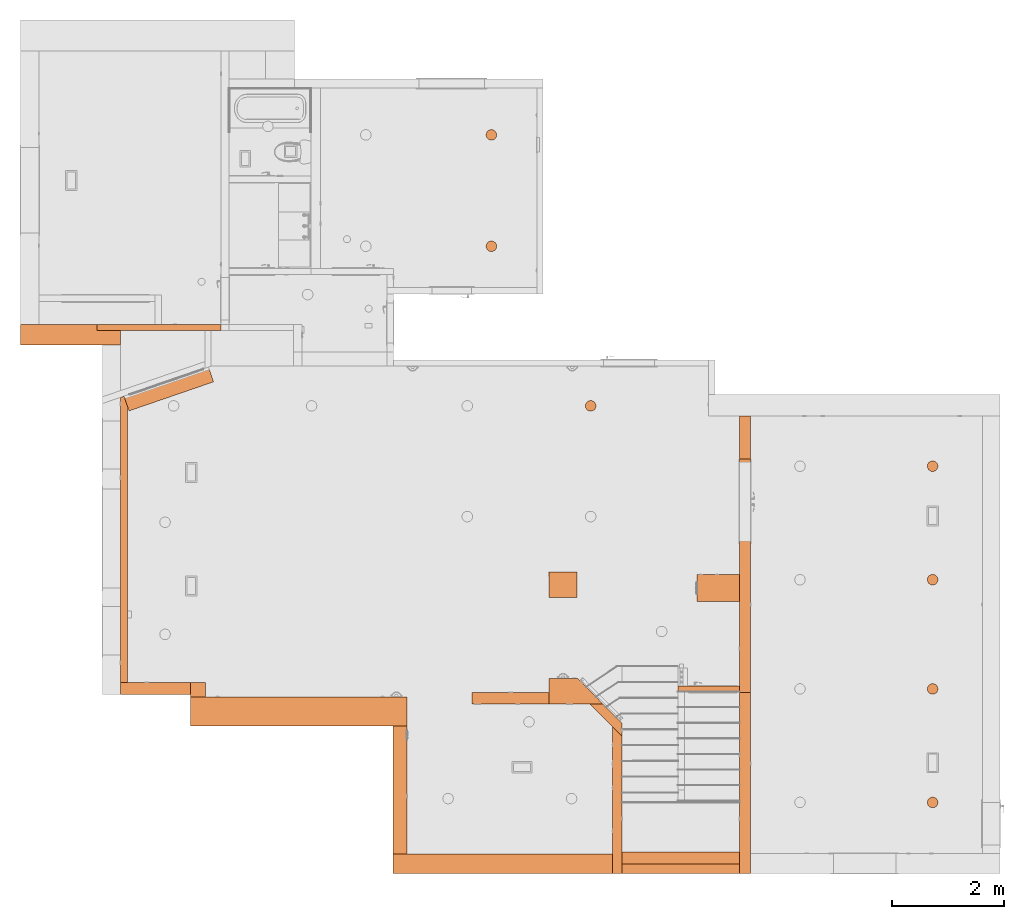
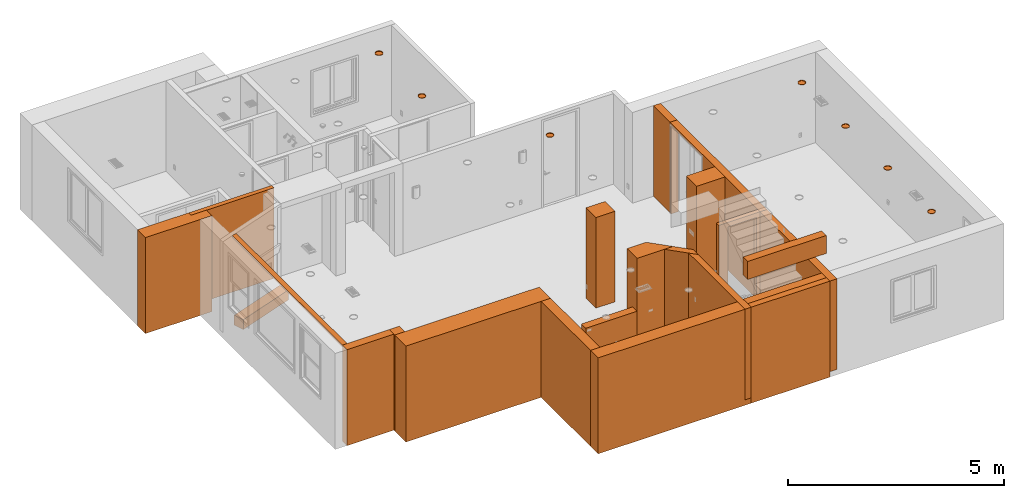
# One storey, part 34 of 48: 28 proxies.
"""IFC2X3 building model written with IfcOpenShell, lengths in inches."""

from ifc_helpers import new_model, entity, si_unit, converted_unit, derived_unit, money_unit, direction, frame, origin_with_axes, place, context, subcontext, project, spatial, open_shell, faceted_brep, surface_model, source, transform, mapped, material, type_object, element, save


model = new_model("IFC2X3")

# Units and contexts
model_context = context("Model", 3, precision=0.00039370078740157, world=origin_with_axes(), true_north=direction((0.0, 1.0)))
plan_context = context("Plan", 3, precision=0.00039370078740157, world=origin_with_axes(), true_north=direction((0.0, 1.0)))
body_context = subcontext(model_context, "Body", "Model", "MODEL_VIEW")
ifc_project = project(units=[converted_unit("LENGTHUNIT", "INCH", entity("IfcPositiveLengthMeasure", 0.0254), si_unit("LENGTHUNIT", "METRE"), dimensions=[1, 0, 0, 0, 0, 0, 0]), converted_unit("AREAUNIT", "SQUARE_FOOT", entity("IfcPositiveLengthMeasure", 0.09290304), si_unit("AREAUNIT", "SQUARE_METRE"), dimensions=[2, 0, 0, 0, 0, 0, 0]), si_unit("PLANEANGLEUNIT", "RADIAN"), si_unit("SOLIDANGLEUNIT", "STERADIAN"), money_unit("USD"), converted_unit("TIMEUNIT", "Year", entity("IfcTimeMeasure", 31557600.0), si_unit("TIMEUNIT", "SECOND"), dimensions=[0, 0, 1, 0, 0, 0, 0]), si_unit("MASSUNIT", "GRAM", prefix="KILO"), si_unit("THERMODYNAMICTEMPERATUREUNIT", "DEGREE_CELSIUS"), si_unit("LUMINOUSINTENSITYUNIT", "LUMEN"), si_unit("ENERGYUNIT", "JOULE", prefix="MEGA"), derived_unit("SPECIFICHEATCAPACITYUNIT", [(si_unit("ENERGYUNIT", "JOULE"), 1), (si_unit("MASSUNIT", "GRAM", prefix="KILO"), -1), (si_unit("THERMODYNAMICTEMPERATUREUNIT", "KELVIN"), -1)])], contexts=[model_context, plan_context])

# Site, building, storey
site_placement = place(None, origin_with_axes())
site = spatial("IfcSite", under=ifc_project, at=site_placement, Name="Site", CompositionType="ELEMENT")
building_placement = place(site_placement, origin_with_axes())
building = spatial("IfcBuilding", under=site, at=building_placement, Name="Building", CompositionType="ELEMENT")
storey_placement = place(building_placement, origin_with_axes())
storey = spatial("IfcBuildingStorey", under=building, at=storey_placement, Name="First Floor", CompositionType="ELEMENT", Elevation=0.0)

# Proxies
building_element_proxy_type_1 = type_object("IfcBuildingElementProxyType", Name="Recessed Spot", PredefinedType="NOTDEFINED")
shared_shape = source(origin_with_axes(), body_context, "Body", "SurfaceModel", [
    faceted_brep([(3.749999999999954, 0.0, -0.4999999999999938), (3.523847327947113, 1.282575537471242, -0.4999999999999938), (3.523847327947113, 1.282575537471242, 0.0), (3.749999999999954, 0.0, 0.0), (3.523847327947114, -1.282575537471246, -0.4999999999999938), (2.872666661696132, -2.410453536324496, -0.4999999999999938), (1.874999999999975, -3.247595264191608, -0.4999999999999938), (0.6511806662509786, -3.693029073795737, -0.4999999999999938), (-0.6511806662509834, -3.693029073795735, -0.4999999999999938), (-1.87499999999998, -3.247595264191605, -0.4999999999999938), (-2.872666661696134, -2.410453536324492, -0.4999999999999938), (-3.523847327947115, -1.282575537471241, -0.4999999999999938), (-3.749999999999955, 0.0, -0.4999999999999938), (-3.523847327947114, 1.282575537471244, -0.4999999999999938), (-2.872666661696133, 2.410453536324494, -0.4999999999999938), (-1.874999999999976, 3.247595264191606, -0.4999999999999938), (-0.6511806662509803, 3.693029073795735, -0.4999999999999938), (0.6511806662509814, 3.693029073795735, -0.4999999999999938), (1.874999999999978, 3.247595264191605, -0.4999999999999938), (2.872666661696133, 2.410453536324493, -0.4999999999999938), (3.24999999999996, 0.0, -0.4999999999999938), (3.054001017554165, 1.11156546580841, -0.4999999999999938), (2.489644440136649, 2.089059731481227, -0.4999999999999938), (1.62499999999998, 2.814582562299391, -0.4999999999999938), (0.5643565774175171, 3.200625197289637, -0.4999999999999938), (-0.5643565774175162, 3.200625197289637, -0.4999999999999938), (-1.62499999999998, 2.814582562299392, -0.4999999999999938), (-2.489644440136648, 2.089059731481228, -0.4999999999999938), (-3.054001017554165, 1.111565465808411, -0.4999999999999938), (-3.24999999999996, 0.0, -0.4999999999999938), (-3.054001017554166, -1.111565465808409, -0.4999999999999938), (-2.48964444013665, -2.089059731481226, -0.4999999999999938), (-1.624999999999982, -2.814582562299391, -0.4999999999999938), (-0.5643565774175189, -3.200625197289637, -0.4999999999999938), (0.5643565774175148, -3.200625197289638, -0.4999999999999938), (1.624999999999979, -2.814582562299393, -0.4999999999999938), (2.489644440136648, -2.08905973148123, -0.4999999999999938), (3.054001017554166, -1.111565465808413, -0.4999999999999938), (2.872666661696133, 2.410453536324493, 0.0), (1.874999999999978, 3.247595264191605, 0.0), (0.6511806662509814, 3.693029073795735, 0.0), (-0.6511806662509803, 3.693029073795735, 0.0), (-1.874999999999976, 3.247595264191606, 0.0), (-2.872666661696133, 2.410453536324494, 0.0), (-3.523847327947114, 1.282575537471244, 0.0), (-3.749999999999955, 0.0, 0.0), (-3.523847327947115, -1.282575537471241, 0.0), (-2.872666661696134, -2.410453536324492, 0.0), (-1.87499999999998, -3.247595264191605, 0.0), (-0.6511806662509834, -3.693029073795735, 0.0), (0.6511806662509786, -3.693029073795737, 0.0), (1.874999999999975, -3.247595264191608, 0.0), (2.872666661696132, -2.410453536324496, 0.0), (3.523847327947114, -1.282575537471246, 0.0), (3.24999999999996, 0.0, 0.0), (3.054001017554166, -1.111565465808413, 0.0), (2.489644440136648, -2.08905973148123, 0.0), (1.624999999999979, -2.814582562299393, 0.0), (0.5643565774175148, -3.200625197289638, 0.0), (-0.5643565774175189, -3.200625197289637, 0.0), (-1.624999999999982, -2.814582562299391, 0.0), (-2.48964444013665, -2.089059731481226, 0.0), (-3.054001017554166, -1.111565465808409, 0.0), (-3.24999999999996, 0.0, 0.0), (-3.054001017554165, 1.111565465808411, 0.0), (-2.489644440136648, 2.089059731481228, 0.0), (-1.62499999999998, 2.814582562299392, 0.0), (-0.5643565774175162, 3.200625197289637, 0.0), (0.5643565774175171, 3.200625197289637, 0.0), (1.62499999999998, 2.814582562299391, 0.0), (2.489644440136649, 2.089059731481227, 0.0), (3.054001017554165, 1.11156546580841, 0.0)], [[[0, 1, 2, 3]], [[0, 4, 5, 6, 7, 8, 9, 10, 11, 12, 13, 14, 15, 16, 17, 18, 19, 1], [20, 21, 22, 23, 24, 25, 26, 27, 28, 29, 30, 31, 32, 33, 34, 35, 36, 37]], [[1, 19, 38, 2]], [[3, 2, 38, 39, 40, 41, 42, 43, 44, 45, 46, 47, 48, 49, 50, 51, 52, 53], [54, 55, 56, 57, 58, 59, 60, 61, 62, 63, 64, 65, 66, 67, 68, 69, 70, 71]], [[4, 0, 3, 53]], [[5, 4, 53, 52]], [[6, 5, 52, 51]], [[7, 6, 51, 50]], [[8, 7, 50, 49]], [[9, 8, 49, 48]], [[10, 9, 48, 47]], [[11, 10, 47, 46]], [[12, 11, 46, 45]], [[13, 12, 45, 44]], [[14, 13, 44, 43]], [[15, 14, 43, 42]], [[16, 15, 42, 41]], [[17, 16, 41, 40]], [[18, 17, 40, 39]], [[19, 18, 39, 38]], [[21, 20, 54, 71]], [[22, 21, 71, 70]], [[23, 22, 70, 69]], [[24, 23, 69, 68]], [[25, 24, 68, 67]], [[26, 25, 67, 66]], [[27, 26, 66, 65]], [[28, 27, 65, 64]], [[29, 28, 64, 63]], [[30, 29, 63, 62]], [[31, 30, 62, 61]], [[32, 31, 61, 60]], [[33, 32, 60, 59]], [[34, 33, 59, 58]], [[35, 34, 58, 57]], [[36, 35, 57, 56]], [[37, 36, 56, 55]], [[20, 37, 55, 54]]]),
    surface_model("IfcShellBasedSurfaceModel", [(3.24999999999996, 0.0, -0.4460629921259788), (3.054001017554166, -1.111565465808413, -0.4460629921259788), (2.489644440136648, -2.08905973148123, -0.4460629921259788), (1.624999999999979, -2.814582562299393, -0.4460629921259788), (0.5643565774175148, -3.200625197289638, -0.4460629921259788), (-0.5643565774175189, -3.200625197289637, -0.4460629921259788), (-1.624999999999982, -2.814582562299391, -0.4460629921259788), (-2.48964444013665, -2.089059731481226, -0.4460629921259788), (-3.054001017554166, -1.111565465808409, -0.4460629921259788), (-3.24999999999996, 0.0, -0.4460629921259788), (-3.054001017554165, 1.111565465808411, -0.4460629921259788), (-2.489644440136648, 2.089059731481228, -0.4460629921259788), (-1.62499999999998, 2.814582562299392, -0.4460629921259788), (-0.5643565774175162, 3.200625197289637, -0.4460629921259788), (0.5643565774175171, 3.200625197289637, -0.4460629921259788), (1.62499999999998, 2.814582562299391, -0.4460629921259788), (2.489644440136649, 2.089059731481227, -0.4460629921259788), (3.054001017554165, 1.11156546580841, -0.4460629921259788)], [open_shell([[[0, 1, 2, 3, 4, 5, 6, 7, 8, 9, 10, 11, 12, 13, 14, 15, 16, 17]]])]),
])
for number, where, z_axis, x_axis, name in (
    (1, (380.4999999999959, 129.9999999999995, 100.9999999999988), (0.0, 0.0, 1.0), (1.0, 0.0, 0.0), "L-03"),
    (2, (380.4999999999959, 206.9999999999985, 100.9999999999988), (0.0, 0.0, 1.0), (1.0, 0.0, 0.0), "L-03"),
    (3, (69.50000000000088, 520.4999999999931, 100.9999999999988), (0.0, 0.0, 1.0), (1.0, 0.0, 0.0), "L-03"),
    (4, (139.4999999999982, 329.4999999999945, 100.9999999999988), (0.0, 0.0, 1.0), (1.0, 0.0, 0.0), "L-03"),
    (5, (69.50000000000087, 441.999999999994, 100.9999999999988), (0.0, 0.0, 1.0), (1.0, 0.0, 0.0), "L-03"),
    (6, (380.4999999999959, 50.00000000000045, 100.9999999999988), (0.0, 0.0, 1.0), (1.0, 0.0, 0.0), "L-03"),
    (7, (380.4999999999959, 286.9999999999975, 100.9999999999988), (0.0, 0.0, 1.0), (1.0, 0.0, 0.0), "L-03"),
):
    element("IfcBuildingElementProxy", number, at=place(storey_placement, frame(where, z_axis=z_axis, x_axis=x_axis)), inside=storey, type_object=building_element_proxy_type_1, Name=name, context=body_context, shape_type="MappedRepresentation", body=[
        mapped(shared_shape, transform((0.0, 0.0, 0.0))),
    ])
ifc_material = material(Name="Generic - Structural")
building_element_proxy_type_2 = type_object("IfcBuildingElementProxyType", Name="Generic - Structural 11\"", PredefinedType="NOTDEFINED")
proxy_1_placement = place(storey_placement, frame((-129.891411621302, 356.8498394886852, 0.0), z_axis=(0.0, 0.0, 1.0), x_axis=(1.0, 0.0, 0.0)))
element("IfcBuildingElementProxy", 8, at=proxy_1_placement, inside=storey, type_object=building_element_proxy_type_2, material=ifc_material, Name="SLA - 003", context=body_context, shape_type="Brep", body=[
    faceted_brep([(-59.57824746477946, -20.48004930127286, 10.99999999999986), (0.0, 0.0, 10.99999999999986), (0.0, 0.0, 0.0), (-59.57824746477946, -20.48004930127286, 0.0), (-56.00236583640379, -30.88260045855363, 10.99999999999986), (3.575881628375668, -10.40255115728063, 10.99999999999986), (3.575881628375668, -10.40255115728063, 0.0), (-56.00236583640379, -30.88260045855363, 0.0)], [[[0, 1, 2, 3]], [[4, 5, 1, 0]], [[1, 5, 6, 2]], [[7, 3, 2, 6]], [[4, 0, 3, 7]], [[5, 4, 7, 6]]]),
])
building_element_proxy_type_3 = type_object("IfcBuildingElementProxyType", Name="Generic - Structural 2\"", PredefinedType="NOTDEFINED")
proxy_2_placement = place(storey_placement, frame((-192.0000016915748, 134.499982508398, 100.9999999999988), z_axis=(0.0, 0.0, 1.0), x_axis=(1.0, 0.0, 0.0)))
element("IfcBuildingElementProxy", 9, at=proxy_2_placement, inside=storey, type_object=building_element_proxy_type_3, material=ifc_material, Name="SLA - 002", context=body_context, shape_type="Brep", body=[
    faceted_brep([(0.0, 0.0, 0.0), (0.0, 0.0, -1.999999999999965), (5.000001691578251, 1.749160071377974e-05, -1.999999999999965), (5.000001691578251, 1.749160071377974e-05, 0.0), (-0.0005107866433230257, 200.9998257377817, 0.0), (-0.0005107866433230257, 200.9998257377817, -1.999999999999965), (5.000001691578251, 202.7187541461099, -1.999999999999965), (5.000001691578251, 202.7187541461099, 0.0)], [[[0, 1, 2, 3]], [[4, 5, 1, 0]], [[2, 1, 5, 6]], [[3, 2, 6, 7]], [[4, 0, 3, 7]], [[7, 6, 5, 4]]]),
])
building_element_proxy_type_4 = type_object("IfcBuildingElementProxyType", Name="Generic - Structural 7 1/2\"", PredefinedType="NOTDEFINED")
proxy_3_placement = place(storey_placement, frame((244.4999999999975, 291.9985463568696, 0.0), z_axis=(0.0, 0.0, 1.0), x_axis=(0.0, 1.0, 0.0)))
element("IfcBuildingElementProxy", 10, at=proxy_3_placement, inside=storey, type_object=building_element_proxy_type_4, material=ifc_material, Name="SW - 044", context=body_context, shape_type="Brep", body=[
    faceted_brep([(30.50145364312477, 0.0, 0.0), (30.50145364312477, 0.0, 100.9999999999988), (30.50145364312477, -7.499999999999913, 100.9999999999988), (30.50145364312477, -7.499999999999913, 0.0), (0.0, 0.0, 0.0), (0.0, 0.0, 100.9999999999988), (0.0, -7.499999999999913, 100.9999999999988), (0.0, -7.499999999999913, 0.0)], [[[0, 1, 2, 3]], [[4, 5, 1, 0]], [[5, 6, 2, 1]], [[3, 2, 6, 7]], [[7, 4, 0, 3]], [[7, 6, 5, 4]]]),
])
proxy_4_placement = place(storey_placement, frame((244.4999999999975, 6.499999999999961, 0.0), z_axis=(0.0, 0.0, 1.0), x_axis=(0.0, 1.0, 0.0)))
element("IfcBuildingElementProxy", 11, at=proxy_4_placement, inside=storey, type_object=building_element_proxy_type_4, material=ifc_material, Name="SW - 044", context=body_context, shape_type="Brep", body=[
    faceted_brep([(121.0000000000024, -7.499999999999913, 0.0), (-6.500000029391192, -7.499999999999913, 0.0), (-6.499999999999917, 0.0, 0.0), (121.0000000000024, 0.0, 0.0), (121.0000000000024, -7.499999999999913, 100.9999999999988), (-6.500000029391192, -7.499999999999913, 100.9999999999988), (-6.499999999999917, 0.0, 100.9999999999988), (121.0000000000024, 0.0, 100.9999999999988)], [[[0, 1, 2, 3]], [[4, 5, 1, 0]], [[6, 2, 1, 5]], [[3, 2, 6, 7]], [[7, 4, 0, 3]], [[7, 6, 5, 4]]]),
])
proxy_5_placement = place(storey_placement, frame((244.4999999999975, 127.5000000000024, 0.0), z_axis=(0.0, 0.0, 1.0), x_axis=(0.0, 1.0, 0.0)))
element("IfcBuildingElementProxy", 12, at=proxy_5_placement, inside=storey, type_object=building_element_proxy_type_4, material=ifc_material, Name="SW - 044", context=body_context, shape_type="Brep", body=[
    faceted_brep([(106.4999999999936, -7.499999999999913, 0.0), (106.4999999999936, -7.499999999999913, 97.99999999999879), (162.4999999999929, -7.499999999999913, 97.99999999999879), (162.4999999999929, -7.499999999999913, 0.0), (164.4985463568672, -7.499999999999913, 0.0), (164.4985463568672, -7.499999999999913, 100.9999999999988), (0.0, -7.499999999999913, 100.9999999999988), (0.0, -7.499999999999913, 0.0), (106.4999999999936, 0.0, 0.0), (106.4999999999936, 0.0, 97.99999999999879), (162.4999999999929, 0.0, 97.99999999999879), (162.4999999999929, 0.0, 0.0), (164.4985463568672, 0.0, 0.0), (164.4985463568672, 0.0, 100.9999999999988), (-2.470555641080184e-06, -2.384188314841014e-06, 100.9999999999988), (0.0, 0.0, 0.0)], [[[0, 1, 2, 3, 4, 5, 6, 7]], [[1, 0, 8, 9]], [[2, 1, 9, 10]], [[3, 2, 10, 11]], [[3, 11, 12, 4]], [[13, 5, 4, 12]], [[6, 5, 13, 14]], [[6, 14, 15, 7]], [[8, 0, 7, 15]], [[9, 8, 15, 14, 13, 12, 11, 10]]]),
])
building_element_proxy_type_5 = type_object("IfcBuildingElementProxyType", Name="Generic - Structural 6 1/2\"", PredefinedType="NOTDEFINED")
proxy_6_placement = place(storey_placement, frame((161.4999999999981, 6.500000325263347, -5.99999999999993), z_axis=(0.0, 0.0, 1.0), x_axis=(1.0, -3.91883597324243e-09, 0.0)))
element("IfcBuildingElementProxy", 13, at=proxy_6_placement, inside=storey, type_object=building_element_proxy_type_5, material=ifc_material, Name="SW - 037", context=body_context, shape_type="Brep", body=[
    faceted_brep([(2.54724325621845e-08, -6.500000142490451, 106.9999999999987), (83.00000002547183, -6.499999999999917, 106.9999999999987), (82.9999999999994, 3.252633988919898e-07, 106.9999999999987), (0.0, 0.0, 106.9999999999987), (82.9999999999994, -6.499999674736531, 0.0), (83.00000002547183, -6.499999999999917, 5.99999999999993), (2.54724325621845e-08, -6.499999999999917, 5.99999999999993), (0.0, -6.499999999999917, 0.0), (82.99999997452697, 3.252633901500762e-07, 0.0), (82.9999999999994, 3.252633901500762e-07, 5.99999999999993), (-2.54724325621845e-08, 0.0, 0.0), (0.0, 0.0, 5.99999999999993)], [[[0, 1, 2, 3]], [[4, 5, 1, 0, 6, 7]], [[8, 9, 2, 1, 5, 4]], [[3, 2, 9, 8, 10, 11]], [[7, 6, 0, 3, 11, 10]], [[7, 10, 8, 4]]]),
])
proxy_7_placement = place(storey_placement, frame((161.4999999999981, 106.0000052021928, 0.0), z_axis=(0.0, 0.0, 1.0), x_axis=(0.0, -1.0, 0.0)))
element("IfcBuildingElementProxy", 14, at=proxy_7_placement, inside=storey, type_object=building_element_proxy_type_5, material=ifc_material, Name="SW - 036", context=body_context, shape_type="Brep", body=[
    faceted_brep([(2.684941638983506, -6.499999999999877, 0.0), (2.684941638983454, -6.499999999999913, 100.9999999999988), (9.210425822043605, -9.238727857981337e-06, 100.9999999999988), (9.210425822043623, 0.0, 0.0), (106.0000050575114, -6.49999999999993, 100.9999999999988), (106.0000048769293, -6.49999999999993, 0.0), (106.0000050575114, 0.0, 100.9999999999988), (90.99998204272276, -9.238727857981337e-06, 100.9999999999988), (106.0000048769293, 0.0, 0.0)], [[[0, 1, 2, 3]], [[4, 1, 0, 5]], [[6, 7, 2, 1, 4]], [[2, 7, 6, 8, 3]], [[8, 5, 0, 3]], [[5, 8, 6, 4]]]),
])
proxy_8_placement = place(storey_placement, frame((130.1230231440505, 137.4999999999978, 0.0), z_axis=(0.0, 0.0, 1.0), x_axis=(0.7057219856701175, -0.7084888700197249, 0.0)))
element("IfcBuildingElementProxy", 15, at=proxy_8_placement, inside=storey, type_object=building_element_proxy_type_5, material=ifc_material, Name="SW - 035", context=body_context, shape_type="Brep", body=[
    faceted_brep([(44.46081813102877, 0.0, 0.0), (50.98630231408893, -6.499999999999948, 0.0), (18.93157064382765, -6.499999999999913, 0.0), (25.40618598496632, 0.0, 0.0), (44.46081813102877, 0.0, 100.9999999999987), (50.98630231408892, -6.499999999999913, 100.9999999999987), (18.93157064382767, -6.499999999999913, 100.9999999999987), (25.40618598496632, 0.0, 100.9999999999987)], [[[0, 1, 2, 3]], [[1, 0, 4, 5]], [[1, 5, 6, 2]], [[7, 3, 2, 6]], [[4, 0, 3, 7]], [[5, 4, 7, 6]]]),
])
building_element_proxy_type_6 = type_object("IfcBuildingElementProxyType", Name="Generic - Structural 4 1/2\"", PredefinedType="NOTDEFINED")
proxy_9_placement = place(storey_placement, frame((244.4999999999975, 127.5000000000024, 0.0), z_axis=(0.0, 0.0, 1.0), x_axis=(-1.0, 0.0, 0.0)))
element("IfcBuildingElementProxy", 16, at=proxy_9_placement, inside=storey, type_object=building_element_proxy_type_6, material=ifc_material, Name="SW - 039", context=body_context, shape_type="Brep", body=[
    faceted_brep([(33.99999999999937, -4.499999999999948, 95.9999999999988), (33.99999999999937, -4.499999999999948, 0.0), (43.49999999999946, -4.499999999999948, 0.0), (43.49999999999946, -4.499999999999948, 100.9999999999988), (0.0, -4.49999999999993, 100.9999999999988), (0.0, -4.499999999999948, 0.0), (3.99999999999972, -4.499999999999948, 0.0), (3.99999999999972, -4.499999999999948, 95.9999999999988), (33.99999999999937, 0.0, 95.9999999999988), (33.99999999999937, 0.0, 0.0), (43.49999999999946, 0.0, 0.0), (43.49999999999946, 0.0, 100.9999999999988), (0.0, 0.0, 100.9999999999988), (0.0, 0.0, 0.0), (3.99999999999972, 0.0, 0.0), (3.99999999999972, 0.0, 95.9999999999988)], [[[0, 1, 2, 3, 4, 5, 6, 7]], [[1, 0, 8, 9]], [[1, 9, 10, 2]], [[11, 3, 2, 10]], [[12, 4, 3, 11]], [[5, 4, 12, 13]], [[14, 6, 5, 13]], [[7, 6, 14, 15]], [[0, 7, 15, 8]], [[15, 14, 13, 12, 11, 10, 9, 8]]]),
])
proxy_10_placement = place(storey_placement, frame((-192.0000016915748, 386.9999999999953, 0.0), z_axis=(0.0, 0.0, 1.0), x_axis=(1.0, 0.0, 0.0)))
element("IfcBuildingElementProxy", 17, at=proxy_10_placement, inside=storey, type_object=building_element_proxy_type_6, material=ifc_material, Name="SW - 051", context=body_context, shape_type="Brep", body=[
    faceted_brep([(-16.43700787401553, 0.0, 100.9999999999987), (-16.43700787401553, -4.499999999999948, 100.9999999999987), (71.00000169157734, -4.499999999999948, 100.9999999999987), (71.00000169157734, 0.0, 100.9999999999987), (-16.43700787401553, 0.0, 0.0), (-16.43700787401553, -4.499999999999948, 0.0), (71.00000169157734, -4.499999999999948, 0.0), (71.00000169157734, -4.499999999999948, 94.99999999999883), (71.00000169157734, 0.0, 0.0)], [[[0, 1, 2, 3]], [[4, 5, 1, 0]], [[5, 6, 7, 2, 1]], [[6, 8, 3, 2, 7]], [[4, 0, 3, 8]], [[5, 4, 8, 6]]]),
])
building_element_proxy_type_7 = type_object("IfcBuildingElementProxyType", Name="Generic - Structural 10 1/2\"", PredefinedType="NOTDEFINED")
proxy_11_placement = place(storey_placement, frame((-131.9999999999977, 134.4999999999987, -5.99999999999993), z_axis=(0.0, 0.0, 1.0), x_axis=(0.0, -1.0, 0.0)))
element("IfcBuildingElementProxy", 18, at=proxy_11_placement, inside=storey, type_object=building_element_proxy_type_7, material=ifc_material, Name="SW - 021", context=body_context, shape_type="Brep", body=[
    faceted_brep([(3.061030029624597e-06, -10.49999999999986, 106.9999999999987), (9.99999999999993, -10.49999999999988, 106.9999999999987), (9.99999999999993, 0.0, 106.9999999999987), (0.0, 0.0, 106.9999999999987), (3.061030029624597e-06, -10.49999999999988, 0.0), (9.99999999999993, -10.49999999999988, 0.0), (9.99999999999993, 0.0, 0.0), (0.0, 0.0, 0.0)], [[[0, 1, 2, 3]], [[4, 5, 1, 0]], [[2, 1, 5, 6]], [[2, 6, 7, 3]], [[4, 0, 3, 7]], [[7, 6, 5, 4]]]),
])
building_element_proxy_type_8 = type_object("IfcBuildingElementProxyType", Name="Generic - Structural 8 1/2\"", PredefinedType="NOTDEFINED")
proxy_12_placement = place(storey_placement, frame((161.5000001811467, 14.99999625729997, 67.99999999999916), z_axis=(0.0, 0.0, 1.0), x_axis=(0.999999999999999, 4.685791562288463e-08, 0.0)))
element("IfcBuildingElementProxy", 19, at=proxy_12_placement, inside=storey, type_object=building_element_proxy_type_8, material=ifc_material, Name="SW - 024", context=body_context, shape_type="Brep", body=[
    faceted_brep([(-1.811486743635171e-07, 0.0, 0.0), (-1.811474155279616e-07, 2.690217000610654e-05, 32.99999999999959), (83.0000022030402, 2.301296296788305e-05, 32.99999999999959), (82.99999981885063, -3.889207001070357e-06, 0.0), (-5.79440957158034e-07, -8.499999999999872, 0.0), (-5.794420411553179e-07, -8.500022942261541, 32.99999999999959), (83.00000180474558, -8.500026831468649, 32.99999999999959), (82.99999942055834, -8.50000388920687, 0.0)], [[[0, 1, 2, 3]], [[4, 5, 1, 0]], [[5, 6, 2, 1]], [[3, 2, 6, 7]], [[4, 0, 3, 7]], [[7, 6, 5, 4]]]),
    faceted_brep([(82.99999942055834, -8.50000388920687, 79.99999999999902), (83.00000180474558, -8.500026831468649, 59.99999999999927), (83.0000022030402, 2.301296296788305e-05, 59.99999999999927), (82.99999981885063, -3.889206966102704e-06, 79.99999999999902), (0.0, -8.499999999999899, 79.99999999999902), (-5.794420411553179e-07, -8.500022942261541, 59.99999999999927), (-1.811474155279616e-07, 2.690217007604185e-05, 59.99999999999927), (3.98292282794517e-07, 0.0, 79.99999999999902)], [[[0, 1, 2, 3]], [[4, 5, 1, 0]], [[5, 6, 2, 1]], [[3, 2, 6, 7]], [[7, 4, 0, 3]], [[7, 6, 5, 4]]]),
])
proxy_13_placement = place(storey_placement, frame((-131.9999999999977, 134.4999999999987, -5.99999999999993), z_axis=(0.0, 0.0, 1.0), x_axis=(-0.9999999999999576, -2.91526670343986e-07, 0.0)))
element("IfcBuildingElementProxy", 20, at=proxy_13_placement, inside=storey, type_object=building_element_proxy_type_8, material=ifc_material, Name="SW - 020", context=body_context, shape_type="Brep", body=[
    faceted_brep([(60.00000169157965, 0.0, 106.9999999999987), (60.00000416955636, 8.499999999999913, 106.9999999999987), (10.50000247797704, 8.499999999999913, 106.9999999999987), (10.50000000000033, 0.0, 106.9999999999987), (60.00000169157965, 0.0, 0.0), (60.00000416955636, 8.499999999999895, 0.0), (10.50000247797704, 8.499999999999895, 0.0), (10.50000000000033, 0.0, 0.0)], [[[0, 1, 2, 3]], [[1, 0, 4, 5]], [[1, 5, 6, 2]], [[7, 3, 2, 6]], [[4, 0, 3, 7]], [[5, 4, 7, 6]]]),
])
building_element_proxy_type_9 = type_object("IfcBuildingElementProxyType", Name="Generic - Structural 20 1/2\"", PredefinedType="NOTDEFINED")
proxy_14_placement = place(storey_placement, frame((-131.9999999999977, 124.4999999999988, -5.99999999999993), z_axis=(0.0, 0.0, 1.0), x_axis=(1.0, 0.0, 0.0)))
element("IfcBuildingElementProxy", 21, at=proxy_14_placement, inside=storey, type_object=building_element_proxy_type_9, material=ifc_material, Name="SW - 022", context=body_context, shape_type="Brep", body=[
    faceted_brep([(-10.49999999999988, 0.0, 106.9999999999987), (141.9999999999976, 0.0, 106.9999999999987), (141.9999999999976, 0.0, 0.0), (-10.49999999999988, 0.0, 0.0), (0.0, 0.0, 99.49999999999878), (0.0, 0.0, 33.99999999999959), (126.9999999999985, 0.0, 33.99999999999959), (126.9999999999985, 0.0, 99.49999999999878), (-10.49999999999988, -20.49999999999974, 106.9999999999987), (141.9999999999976, -20.49999999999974, 106.9999999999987), (141.9999999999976, -20.49999999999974, 0.0), (-10.49999999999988, -20.49999999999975, 0.0), (0.0, -15.49999999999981, 33.99999999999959), (0.0, -15.49999999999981, 99.49999999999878), (126.9999999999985, -15.49999999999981, 33.99999999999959), (126.9999999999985, -15.49999999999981, 99.49999999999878)], [[[0, 1, 2, 3], [4, 5, 6, 7]], [[8, 9, 1, 0]], [[9, 10, 2, 1]], [[3, 2, 10, 11]], [[8, 0, 3, 11]], [[12, 5, 4, 13]], [[14, 6, 5, 12]], [[15, 7, 6, 14]], [[13, 4, 7, 15]], [[11, 10, 9, 8]], [[12, 13, 15, 14]]]),
])
building_element_proxy_type_10 = type_object("IfcBuildingElementProxyType", Name="Generic - Structural 14 1/2\"", PredefinedType="NOTDEFINED")
proxy_15_placement = place(storey_placement, frame((-249.4999999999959, 386.9999999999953, -5.99999999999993), z_axis=(0.0, 0.0, 1.0), x_axis=(1.0, 0.0, 0.0)))
element("IfcBuildingElementProxy", 22, at=proxy_15_placement, inside=storey, type_object=building_element_proxy_type_10, material=ifc_material, Name="SW - 051", context=body_context, shape_type="Brep", body=[
    faceted_brep([(-12.74999999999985, 0.0, 106.9999999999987), (41.06299043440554, 0.0, 106.9999999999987), (41.06299043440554, 0.0, 5.99999999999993), (57.49999830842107, 0.0, 5.99999999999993), (57.49999830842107, 0.0, 0.0), (-12.74999999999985, 0.0, 0.0), (57.49999830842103, -4.499999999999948, 106.9999999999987), (41.06299043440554, -4.499999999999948, 106.9999999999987), (-12.74999999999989, -14.49999999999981, 106.9999999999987), (57.49999830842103, -14.49999999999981, 106.9999999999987), (41.06299043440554, -4.499999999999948, 5.99999999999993), (57.49999830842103, -4.499999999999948, 5.99999999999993), (57.49999830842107, -14.49999999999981, 0.0), (-12.74999999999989, -14.49999999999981, 0.0)], [[[0, 1, 2, 3, 4, 5]], [[6, 7, 1, 0, 8, 9]], [[10, 2, 1, 7]], [[10, 11, 3, 2]], [[3, 11, 6, 9, 12, 4]], [[13, 5, 4, 12]], [[5, 13, 8, 0]], [[10, 7, 6, 11]], [[8, 13, 12, 9]]]),
])
building_element_proxy_type_11 = type_object("IfcBuildingElementProxyType", Name="Generic - Structural 19\" x 30\"", PredefinedType="NOTDEFINED")
proxy_16_placement = place(storey_placement, frame((229.4999999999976, 201.0000000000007, 0.0), z_axis=(0.0, 0.0, 1.0), x_axis=(0.0, 1.0, 0.0)))
element("IfcBuildingElementProxy", 23, at=proxy_16_placement, inside=storey, type_object=building_element_proxy_type_11, material=ifc_material, Name="C-01", context=body_context, shape_type="Brep", body=[
    faceted_brep([(-9.499999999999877, -14.99999999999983, 100.9999999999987), (-9.499999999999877, -14.99999999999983, 0.0), (9.499999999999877, -14.99999999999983, 0.0), (9.499999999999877, -14.99999999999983, 100.9999999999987), (-9.499999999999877, 14.99999999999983, 100.9999999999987), (-9.499999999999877, 14.99999999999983, 0.0), (9.499999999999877, 14.99999999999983, 0.0), (9.499999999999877, 14.99999999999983, 100.9999999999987)], [[[0, 1, 2, 3]], [[4, 5, 1, 0]], [[2, 1, 5, 6]], [[3, 2, 6, 7]], [[4, 0, 3, 7]], [[7, 6, 5, 4]]]),
])
building_element_proxy_type_12 = type_object("IfcBuildingElementProxyType", Name="Generic - Structural 10\"", PredefinedType="NOTDEFINED")
proxy_17_placement = place(storey_placement, frame((9.999999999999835, 124.4999999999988, -5.99999999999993), z_axis=(0.0, 0.0, 1.0), x_axis=(0.0, -1.0, 0.0)))
element("IfcBuildingElementProxy", 24, at=proxy_17_placement, inside=storey, type_object=building_element_proxy_type_12, material=ifc_material, Name="SW - 025", context=body_context, shape_type="Brep", body=[
    faceted_brep([(110.7499999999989, 0.0, 0.0), (20.49999999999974, 0.0, 0.0), (20.49999999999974, 0.0, 106.9999999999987), (110.7499999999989, 0.0, 106.9999999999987), (110.7499999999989, -9.999999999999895, 0.0), (20.49999999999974, -9.999999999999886, 0.0), (20.49999999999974, -9.999999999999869, 106.9999999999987), (110.7499999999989, -9.999999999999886, 106.9999999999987)], [[[0, 1, 2, 3]], [[4, 5, 1, 0]], [[5, 6, 2, 1]], [[3, 2, 6, 7]], [[4, 0, 3, 7]], [[7, 6, 5, 4]]]),
])
building_element_proxy_type_13 = type_object("IfcBuildingElementProxyType", Name="Generic - Structural 18\"", PredefinedType="NOTDEFINED")
proxy_18_placement = place(storey_placement, frame((130.1230231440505, 137.4999999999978, 0.0), z_axis=(0.0, 0.0, 1.0), x_axis=(-1.0, 0.0, 0.0)))
element("IfcBuildingElementProxy", 25, at=proxy_18_placement, inside=storey, type_object=building_element_proxy_type_13, material=ifc_material, Name="SW - 068", context=body_context, shape_type="Brep", body=[
    faceted_brep([(0.0, 0.0, 100.9999999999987), (20.12302314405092, 0.0, 100.9999999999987), (20.12302314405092, 17.99999999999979, 100.9999999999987), (-17.92970402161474, 17.99999999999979, 100.9999999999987), (0.0, 0.0, 0.0), (20.12302314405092, 0.0, 0.0), (20.12302314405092, 17.99999999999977, 0.0), (-17.92970402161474, 17.99999999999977, 0.0)], [[[0, 1, 2, 3]], [[4, 5, 1, 0]], [[2, 1, 5, 6]], [[3, 2, 6, 7]], [[4, 0, 3, 7]], [[7, 6, 5, 4]]]),
])
building_element_proxy_type_14 = type_object("IfcBuildingElementProxyType", Name="Generic - Structural 8\"", PredefinedType="NOTDEFINED")
proxy_19_placement = place(storey_placement, frame((109.9999999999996, 127.499999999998, 0.0), z_axis=(0.0, 0.0, 1.0), x_axis=(-1.0, 0.0, 0.0)))
element("IfcBuildingElementProxy", 26, at=proxy_19_placement, inside=storey, type_object=building_element_proxy_type_14, material=ifc_material, Name="SW - 073", context=body_context, shape_type="Brep", body=[
    faceted_brep([(0.0, 0.0, 41.99999999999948), (53.99999999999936, 0.0, 41.99999999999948), (53.99999999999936, 7.999999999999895, 41.99999999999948), (0.0, 7.999999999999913, 41.99999999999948), (0.0, 0.0, 0.0), (53.99999999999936, 0.0, 0.0), (53.99999999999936, 7.999999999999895, 0.0), (0.0, 7.999999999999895, 0.0)], [[[0, 1, 2, 3]], [[4, 5, 1, 0]], [[2, 1, 5, 6]], [[3, 2, 6, 7]], [[4, 0, 3, 7]], [[7, 6, 5, 4]]]),
])
building_element_proxy_type_15 = type_object("IfcBuildingElementProxyType", Name="Generic - Structural 18\" x 20\"", PredefinedType="NOTDEFINED")
proxy_20_placement = place(storey_placement, frame((119.9999999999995, 203.4936648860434, 0.0), z_axis=(0.0, 0.0, 1.0), x_axis=(0.0, 1.0, 0.0)))
element("IfcBuildingElementProxy", 27, at=proxy_20_placement, inside=storey, type_object=building_element_proxy_type_15, material=ifc_material, Name="C-01", context=body_context, shape_type="Brep", body=[
    faceted_brep([(-8.999999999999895, -9.999999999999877, 100.9999999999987), (-8.999999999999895, -9.999999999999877, 0.0), (8.999999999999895, -9.999999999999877, 0.0), (8.999999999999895, -9.999999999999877, 100.9999999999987), (-8.999999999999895, 9.999999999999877, 100.9999999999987), (-8.999999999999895, 9.999999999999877, 0.0), (8.999999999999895, 9.999999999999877, 0.0), (8.999999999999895, 9.999999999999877, 100.9999999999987)], [[[0, 1, 2, 3]], [[4, 5, 1, 0]], [[2, 1, 5, 6]], [[3, 2, 6, 7]], [[4, 0, 3, 7]], [[7, 6, 5, 4]]]),
])
building_element_proxy_type_16 = type_object("IfcBuildingElementProxyType", Name="Generic - Structural 13 3/4\"", PredefinedType="NOTDEFINED")
proxy_21_placement = place(storey_placement, frame((9.999999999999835, 13.74999999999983, -5.99999999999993), z_axis=(0.0, 0.0, 1.0), x_axis=(1.0, 0.0, 0.0)))
element("IfcBuildingElementProxy", 28, at=proxy_21_placement, inside=storey, type_object=building_element_proxy_type_16, material=ifc_material, Name="SW - 026", context=body_context, shape_type="Brep", body=[
    faceted_brep([(-9.999999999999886, 0.0, 106.9999999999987), (144.9999999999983, 0.0, 106.9999999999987), (144.9999999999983, 0.0, 5.99999999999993), (151.4999999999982, 0.0, 5.99999999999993), (151.4999999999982, 0.0, 0.0), (-9.999999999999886, 0.0, 0.0), (-9.999999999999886, -13.74999999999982, 106.9999999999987), (144.9999999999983, -13.74999981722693, 106.9999999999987), (144.9999999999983, -13.7499996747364, 5.99999999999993), (151.4999999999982, -13.7499996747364, 5.99999999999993), (151.4999999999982, -13.74999999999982, 0.0), (-9.999999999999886, -13.74999999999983, 0.0)], [[[0, 1, 2, 3, 4, 5]], [[6, 7, 1, 0]], [[8, 2, 1, 7]], [[8, 9, 3, 2]], [[4, 3, 9, 10]], [[11, 5, 4, 10]], [[5, 11, 6, 0]], [[9, 8, 7, 6, 11, 10]]]),
])

save(model, "model.ifc")
